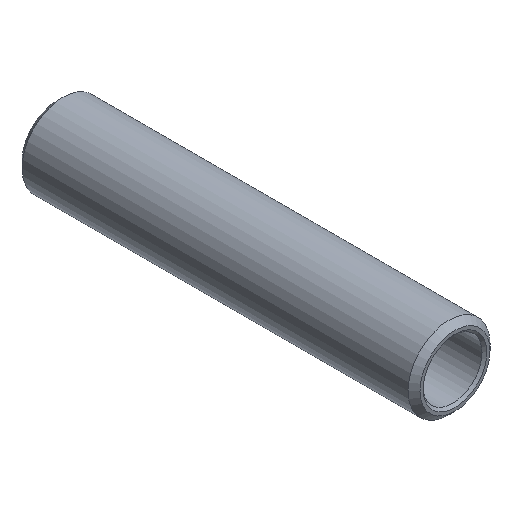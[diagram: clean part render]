
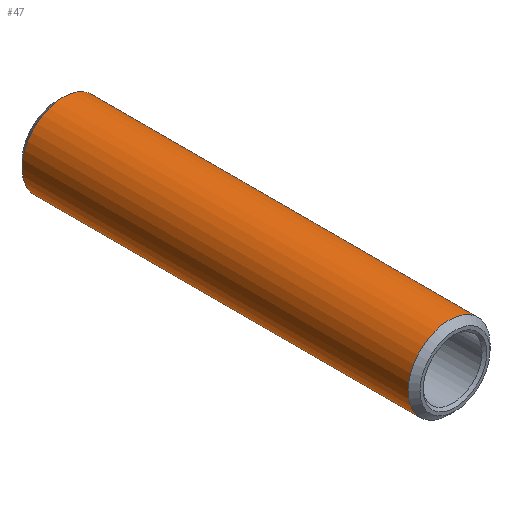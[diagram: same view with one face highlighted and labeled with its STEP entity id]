
A CAD part, isometric view. The second image highlights one B-rep face of the part: STEP entity #47.
In plain terms, the highlighted cylindrical face has radius 10.3 mm (diameter 20.6 mm), a full revolution.
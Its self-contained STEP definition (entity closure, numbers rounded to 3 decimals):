
#47=ADVANCED_FACE('',(#79,#81),#83,.T.);
#79=FACE_OUTER_BOUND('',#80,.T.);
#80=EDGE_LOOP('',(#130));
#81=FACE_OUTER_BOUND('',#82,.T.);
#82=EDGE_LOOP('',(#131));
#83=CYLINDRICAL_SURFACE('',#84,10.3);
#84=AXIS2_PLACEMENT_3D('',#85,#86,#87);
#85=CARTESIAN_POINT('',(0.,0.,0.));
#86=DIRECTION('',(0.,1.,0.));
#87=DIRECTION('',(-1.,0.,0.));
#130=ORIENTED_EDGE('',*,*,#144,.F.);
#131=ORIENTED_EDGE('',*,*,#145,.T.);
#144=EDGE_CURVE('',#156,#156,#157,.T.);
#145=EDGE_CURVE('',#158,#158,#159,.T.);
#156=VERTEX_POINT('',#184);
#157=CIRCLE('',#185,10.3);
#158=VERTEX_POINT('',#189);
#159=CIRCLE('',#190,10.3);
#184=CARTESIAN_POINT('',(-10.3,98.5,0.));
#185=AXIS2_PLACEMENT_3D('',#186,#187,#188);
#186=CARTESIAN_POINT('',(0.,98.5,0.));
#187=DIRECTION('',(0.,1.,0.));
#188=DIRECTION('',(-1.,0.,0.));
#189=CARTESIAN_POINT('',(-10.3,1.5,0.));
#190=AXIS2_PLACEMENT_3D('',#191,#192,#193);
#191=CARTESIAN_POINT('',(0.,1.5,0.));
#192=DIRECTION('',(0.,1.,0.));
#193=DIRECTION('',(-1.,0.,0.));
